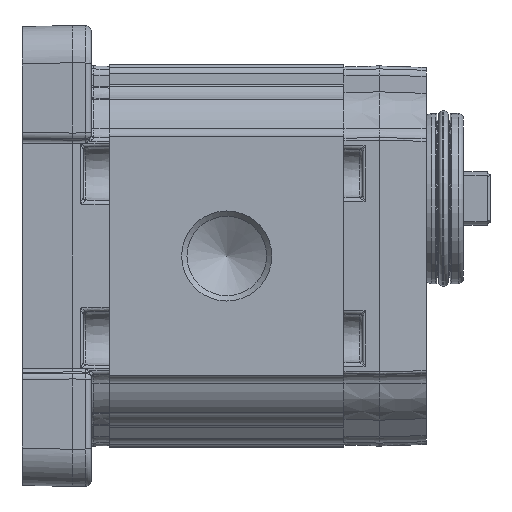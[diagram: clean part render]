
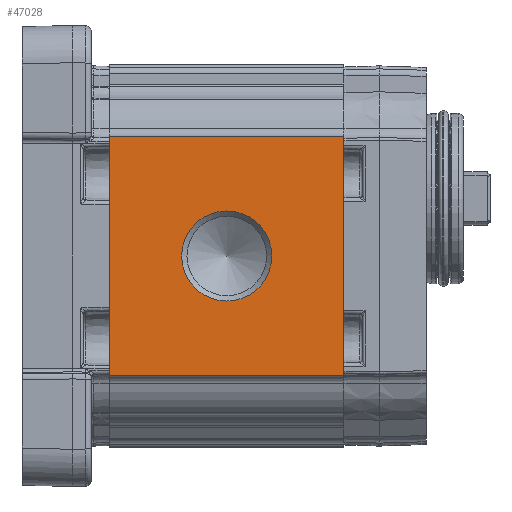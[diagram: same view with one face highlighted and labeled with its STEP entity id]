
A CAD part, left-side view. The second image highlights one B-rep face of the part: STEP entity #47028.
In plain terms, the highlighted planar face has unit normal (-1, 0, 0) as drawn and (1, 0, 0) by its records, which use the part's own axes.
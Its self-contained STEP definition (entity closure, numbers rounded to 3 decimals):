
#2738=PLANE('',#50054);
#3541=LINE('',#86758,#4943);
#3543=LINE('',#86787,#4945);
#3568=LINE('',#86875,#4970);
#3569=LINE('',#86877,#4971);
#4943=VECTOR('',#56521,1000.);
#4945=VECTOR('',#56549,1000.);
#4970=VECTOR('',#56642,1000.);
#4971=VECTOR('',#56645,1000.);
#10155=ORIENTED_EDGE('',*,*,#17815,.T.);
#10156=ORIENTED_EDGE('',*,*,#17805,.T.);
#10157=ORIENTED_EDGE('',*,*,#17757,.T.);
#10158=ORIENTED_EDGE('',*,*,#17806,.T.);
#10159=ORIENTED_EDGE('',*,*,#17743,.F.);
#17743=EDGE_CURVE('',#21841,#21842,#3541,.T.);
#17757=EDGE_CURVE('',#21856,#21855,#3543,.T.);
#17805=EDGE_CURVE('',#21841,#21856,#3568,.T.);
#17806=EDGE_CURVE('',#21855,#21842,#3569,.F.);
#17815=EDGE_CURVE('',#21885,#21885,#24501,.F.);
#21841=VERTEX_POINT('',#86757);
#21842=VERTEX_POINT('',#86759);
#21855=VERTEX_POINT('',#86786);
#21856=VERTEX_POINT('',#86788);
#21885=VERTEX_POINT('',#86903);
#24501=CIRCLE('',#50055,8.475);
#26749=EDGE_LOOP('',(#10155));
#26750=EDGE_LOOP('',(#10156,#10157,#10158,#10159));
#29160=FACE_BOUND('',#26749,.T.);
#29161=FACE_BOUND('',#26750,.T.);
#47028=ADVANCED_FACE('',(#29160,#29161),#2738,.T.);
#50054=AXIS2_PLACEMENT_3D('',#86901,#56684,#56685);
#50055=AXIS2_PLACEMENT_3D('',#86902,#56686,#56687);
#56521=DIRECTION('',(0.,0.,-1.));
#56549=DIRECTION('',(0.,0.,-1.));
#56642=DIRECTION('',(0.,-1.,0.));
#56645=DIRECTION('',(0.,-1.,0.));
#56684=DIRECTION('',(1.,0.,0.));
#56685=DIRECTION('',(0.,0.,-1.));
#56686=DIRECTION('',(1.,0.,0.));
#56687=DIRECTION('',(0.,0.,-1.));
#86757=CARTESIAN_POINT('',(33.,44.,22.5));
#86758=CARTESIAN_POINT('',(33.,44.,-21.711));
#86759=CARTESIAN_POINT('',(33.,44.,-22.5));
#86786=CARTESIAN_POINT('',(33.,0.,-22.5));
#86787=CARTESIAN_POINT('',(33.,0.,-21.711));
#86788=CARTESIAN_POINT('',(33.,0.,22.5));
#86875=CARTESIAN_POINT('',(33.,44.,22.5));
#86877=CARTESIAN_POINT('',(33.,44.,-22.5));
#86901=CARTESIAN_POINT('',(33.,125.695,-45.494));
#86902=CARTESIAN_POINT('',(33.,22.,0.));
#86903=CARTESIAN_POINT('',(33.,22.,-8.475));
